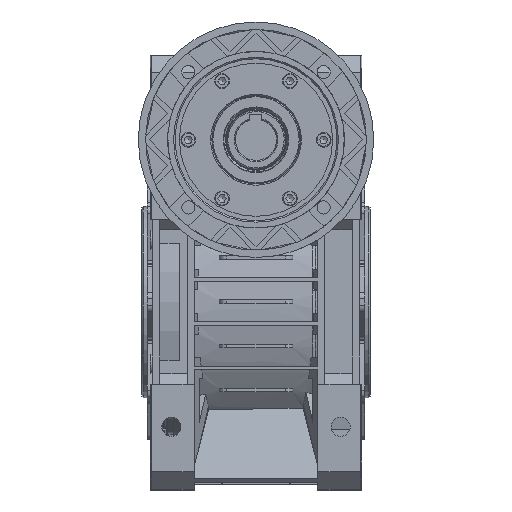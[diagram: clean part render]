
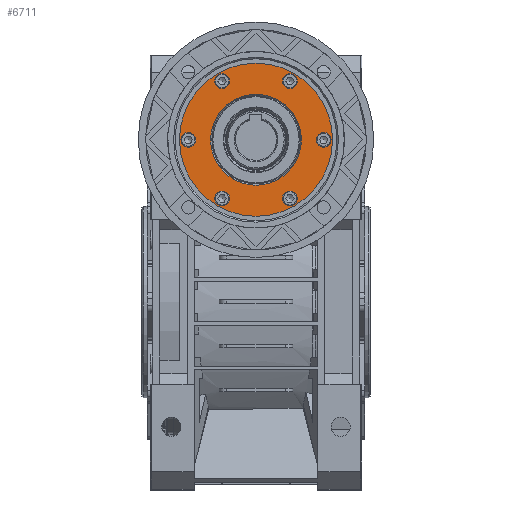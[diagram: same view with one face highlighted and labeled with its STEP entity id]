
A CAD part, top view. The second image highlights one B-rep face of the part: STEP entity #6711.
In plain terms, the highlighted planar face has unit normal (0, 0, 1).
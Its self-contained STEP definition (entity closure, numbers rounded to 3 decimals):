
#761=CARTESIAN_POINT('',(46.,5.,139.0));
#762=VERTEX_POINT('',#761);
#763=CARTESIAN_POINT('',(46.,0.,139.));
#764=DIRECTION('',(0.0,0.0,-1.0));
#765=DIRECTION('',(0.0,1.0,0.0));
#766=AXIS2_PLACEMENT_3D('',#763,#764,#765);
#767=CIRCLE('',#766,5.0);
#768=EDGE_CURVE('',#762,#762,#767,.T.);
#1068=CARTESIAN_POINT('',(23.,44.837,139.0));
#1069=VERTEX_POINT('',#1068);
#1070=CARTESIAN_POINT('',(23.,39.837,139.));
#1071=DIRECTION('',(0.0,0.0,-1.0));
#1072=DIRECTION('',(0.0,1.0,0.0));
#1073=AXIS2_PLACEMENT_3D('',#1070,#1071,#1072);
#1074=CIRCLE('',#1073,5.0);
#1075=EDGE_CURVE('',#1069,#1069,#1074,.T.);
#1375=CARTESIAN_POINT('',(-23.,44.837,139.0));
#1376=VERTEX_POINT('',#1375);
#1377=CARTESIAN_POINT('',(-23.,39.837,139.));
#1378=DIRECTION('',(0.0,0.0,-1.0));
#1379=DIRECTION('',(0.0,1.0,0.0));
#1380=AXIS2_PLACEMENT_3D('',#1377,#1378,#1379);
#1381=CIRCLE('',#1380,5.0);
#1382=EDGE_CURVE('',#1376,#1376,#1381,.T.);
#6635=CARTESIAN_POINT('',(0.,30.866,139.));
#6636=VERTEX_POINT('',#6635);
#6637=CARTESIAN_POINT('',(0.,0.,139.0));
#6638=DIRECTION('',(0.0,0.0,-1.0));
#6639=DIRECTION('',(0.0,1.0,0.0));
#6640=AXIS2_PLACEMENT_3D('',#6637,#6638,#6639);
#6641=CIRCLE('',#6640,30.866);
#6642=EDGE_CURVE('',#6636,#6636,#6641,.T.);
#6650=CARTESIAN_POINT('',(0.,41.433,139.));
#6651=DIRECTION('',(0.0,0.0,1.0));
#6652=DIRECTION('',(1.0,0.0,0.0));
#6653=AXIS2_PLACEMENT_3D('',#6650,#6651,#6652);
#6654=PLANE('',#6653);
#6655=CARTESIAN_POINT('',(0.,52.,139.));
#6656=VERTEX_POINT('',#6655);
#6657=CARTESIAN_POINT('',(0.,0.,139.));
#6658=DIRECTION('',(0.0,0.0,-1.0));
#6659=DIRECTION('',(0.0,1.0,0.0));
#6660=AXIS2_PLACEMENT_3D('',#6657,#6658,#6659);
#6661=CIRCLE('',#6660,52.);
#6662=EDGE_CURVE('',#6656,#6656,#6661,.T.);
#6663=ORIENTED_EDGE('',*,*,#6662,.F.);
#6664=EDGE_LOOP('',(#6663));
#6665=FACE_OUTER_BOUND('',#6664,.T.);
#6666=CARTESIAN_POINT('',(23.,-34.837,139.0));
#6667=VERTEX_POINT('',#6666);
#6668=CARTESIAN_POINT('',(23.,-39.837,139.));
#6669=DIRECTION('',(0.0,0.0,-1.0));
#6670=DIRECTION('',(0.0,1.0,0.0));
#6671=AXIS2_PLACEMENT_3D('',#6668,#6669,#6670);
#6672=CIRCLE('',#6671,5.0);
#6673=EDGE_CURVE('',#6667,#6667,#6672,.T.);
#6674=ORIENTED_EDGE('',*,*,#6673,.T.);
#6675=EDGE_LOOP('',(#6674));
#6676=FACE_BOUND('',#6675,.T.);
#6677=ORIENTED_EDGE('',*,*,#768,.T.);
#6678=EDGE_LOOP('',(#6677));
#6679=FACE_BOUND('',#6678,.T.);
#6680=CARTESIAN_POINT('',(-23.,-34.837,139.0));
#6681=VERTEX_POINT('',#6680);
#6682=CARTESIAN_POINT('',(-23.,-39.837,139.));
#6683=DIRECTION('',(0.0,0.0,-1.0));
#6684=DIRECTION('',(0.0,1.0,0.0));
#6685=AXIS2_PLACEMENT_3D('',#6682,#6683,#6684);
#6686=CIRCLE('',#6685,5.0);
#6687=EDGE_CURVE('',#6681,#6681,#6686,.T.);
#6688=ORIENTED_EDGE('',*,*,#6687,.T.);
#6689=EDGE_LOOP('',(#6688));
#6690=FACE_BOUND('',#6689,.T.);
#6691=ORIENTED_EDGE('',*,*,#1075,.T.);
#6692=EDGE_LOOP('',(#6691));
#6693=FACE_BOUND('',#6692,.T.);
#6694=CARTESIAN_POINT('',(-46.,5.,139.0));
#6695=VERTEX_POINT('',#6694);
#6696=CARTESIAN_POINT('',(-46.,0.,139.));
#6697=DIRECTION('',(0.0,0.0,-1.0));
#6698=DIRECTION('',(0.0,1.0,0.0));
#6699=AXIS2_PLACEMENT_3D('',#6696,#6697,#6698);
#6700=CIRCLE('',#6699,5.0);
#6701=EDGE_CURVE('',#6695,#6695,#6700,.T.);
#6702=ORIENTED_EDGE('',*,*,#6701,.T.);
#6703=EDGE_LOOP('',(#6702));
#6704=FACE_BOUND('',#6703,.T.);
#6705=ORIENTED_EDGE('',*,*,#1382,.T.);
#6706=EDGE_LOOP('',(#6705));
#6707=FACE_BOUND('',#6706,.T.);
#6708=ORIENTED_EDGE('',*,*,#6642,.T.);
#6709=EDGE_LOOP('',(#6708));
#6710=FACE_BOUND('',#6709,.T.);
#6711=ADVANCED_FACE('',(#6665,#6676,#6679,#6690,#6693,#6704,#6707,#6710),#6654,.T.);
